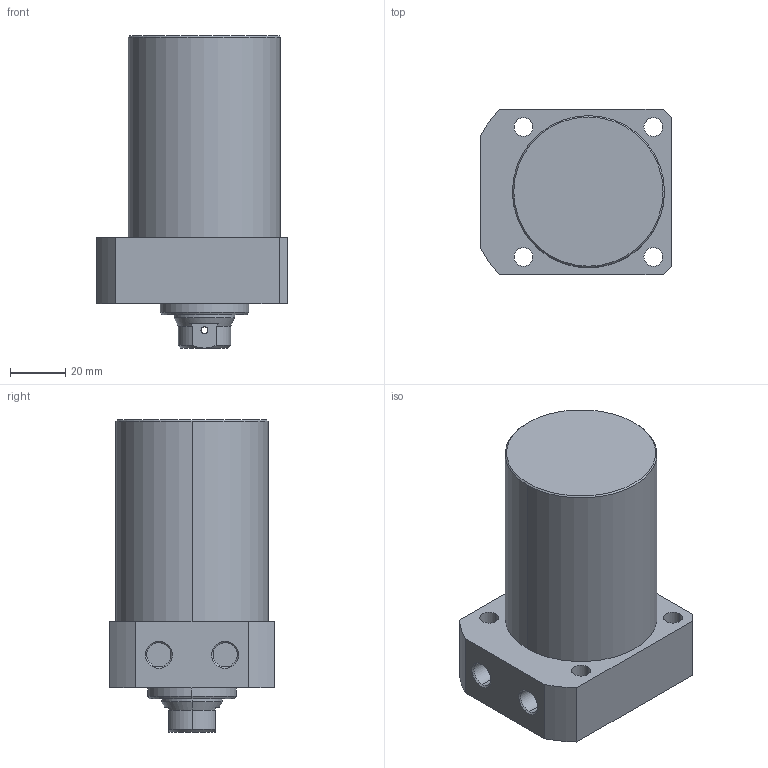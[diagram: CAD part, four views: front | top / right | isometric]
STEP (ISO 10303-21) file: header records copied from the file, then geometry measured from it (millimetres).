
FILE_DESCRIPTION (( 'STEP AP203' ), '1' );
FILE_NAME ('CLLR-055CB-060.STEP', '2019-12-19T07:51:46', ( '' ), ( '' ), 'SwSTEP 2.0', 'SolidWorks 2015', '' );
FILE_SCHEMA (( 'CONFIG_CONTROL_DESIGN' ));
Length unit declared in the file: millimetre
Products named in the file (1): CLLR-055CB-060
Bounding box: 69 x 60 x 113 mm (x, y, z)
Volume: 271032.6 mm3; surface area: 30840 mm2
Topology: 1 solids, 1 shells, 69 faces, 163 edges, 102 vertices
Faces by surface type: cylinder 33, plane 19, cone 17
Entity records: 2183 total; most frequent: CARTESIAN_POINT 453, DIRECTION 368, ORIENTED_EDGE 322, EDGE_CURVE 161, AXIS2_PLACEMENT_3D 149, VERTEX_POINT 102, EDGE_LOOP 89, CIRCLE 79
